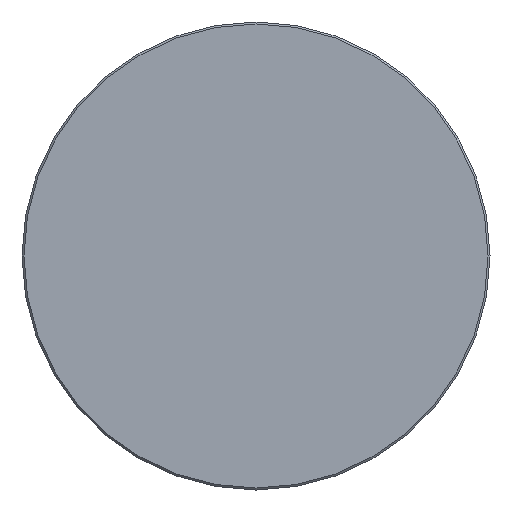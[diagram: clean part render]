
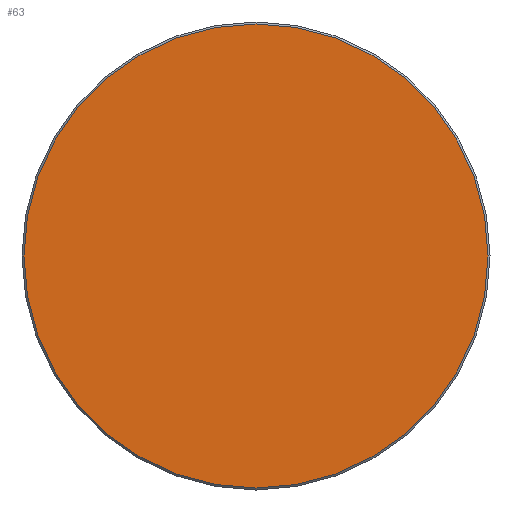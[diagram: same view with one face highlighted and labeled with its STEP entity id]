
A CAD part, left-side view. The second image highlights one B-rep face of the part: STEP entity #63.
In plain terms, the highlighted planar face has unit normal (-1, 0, 0).
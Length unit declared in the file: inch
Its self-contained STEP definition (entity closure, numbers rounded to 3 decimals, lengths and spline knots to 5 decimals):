
#24 = EDGE_LOOP ( 'NONE', ( #222, #206 ) ) ;
#26 = EDGE_CURVE ( 'NONE', #228, #180, #361, .T. ) ;
#63 = ADVANCED_FACE ( 'NONE', ( #366 ), #264, .T. ) ;
#69 = AXIS2_PLACEMENT_3D ( 'NONE', #102, #268, #323 ) ;
#74 = DIRECTION ( 'NONE',  ( -1., 0., 0. ) ) ;
#102 = CARTESIAN_POINT ( 'NONE',  ( 0., 0., 0. ) ) ;
#114 = DIRECTION ( 'NONE',  ( -1., 0., 0. ) ) ;
#125 = AXIS2_PLACEMENT_3D ( 'NONE', #369, #74, #321 ) ;
#127 = CARTESIAN_POINT ( 'NONE',  ( 0., 0.46475, 0. ) ) ;
#141 = AXIS2_PLACEMENT_3D ( 'NONE', #322, #114, #294 ) ;
#163 = CIRCLE ( 'NONE', #141, 0.46475 ) ;
#180 = VERTEX_POINT ( 'NONE', #353 ) ;
#206 = ORIENTED_EDGE ( 'NONE', *, *, #316, .T. ) ;
#222 = ORIENTED_EDGE ( 'NONE', *, *, #26, .T. ) ;
#228 = VERTEX_POINT ( 'NONE', #127 ) ;
#264 = PLANE ( 'NONE',  #125 ) ;
#268 = DIRECTION ( 'NONE',  ( -1., 0., 0. ) ) ;
#294 = DIRECTION ( 'NONE',  ( 0., -1., 0. ) ) ;
#316 = EDGE_CURVE ( 'NONE', #180, #228, #163, .T. ) ;
#321 = DIRECTION ( 'NONE',  ( 0., -1., 0. ) ) ;
#322 = CARTESIAN_POINT ( 'NONE',  ( 0., 0., 0. ) ) ;
#323 = DIRECTION ( 'NONE',  ( 0., -1., 0. ) ) ;
#353 = CARTESIAN_POINT ( 'NONE',  ( 0., -0.46475, 0. ) ) ;
#361 = CIRCLE ( 'NONE', #69, 0.46475 ) ;
#366 = FACE_OUTER_BOUND ( 'NONE', #24, .T. ) ;
#369 = CARTESIAN_POINT ( 'NONE',  ( 0., 0., 0. ) ) ;
